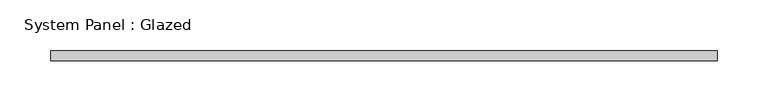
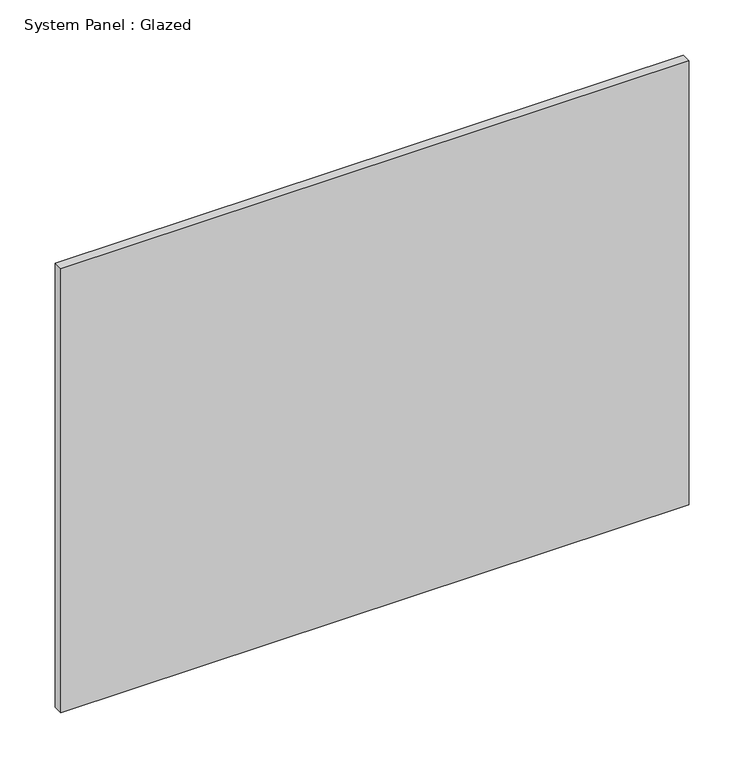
"""IFC4 building model written with IfcOpenShell, lengths in millimetres: plate geometry, System Panel : Glazed."""

import ifcopenshell
import ifcopenshell.guid

model = None  # the IFC model being written
_history = None  # IfcOwnerHistory: only IFC2X3 demands one
_inside = {}  # id of a spatial element -> (the spatial element, [elements in it])
_under = {}  # id of a project, library or spatial element -> (it, [spatial elements below it])
_declared = {}  # id of a project -> (the project, [libraries it declares])
_typed = {}  # id of a type object -> (the type object, [elements of that type])
_made_of = {}  # id of a material, layer set ... -> (it, [elements and type objects made of it])


def new_model(schema):
    """Start an empty IFC model of exactly this schema.

    Asked for "IFC4X3", IfcOpenShell would pick the latest addendum, in which some entities
    have other attributes; the version numbers below select the first issue.
    IFC2X3 requires an IfcOwnerHistory on every rooted entity: one is made here for all.
    """
    global model, _history
    if schema == "IFC4X3":
        model = ifcopenshell.file(schema_version=(4, 3, 0, 0))
    else:
        model = ifcopenshell.file(schema=schema)
    _inside.clear()
    _under.clear()
    _declared.clear()
    _typed.clear()
    _made_of.clear()
    _history = None
    if model.schema == "IFC2X3":
        org = make("IfcOrganization", Name="unknown")
        user = make(
            "IfcPersonAndOrganization",
            ThePerson=make("IfcPerson", FamilyName="unknown"),
            TheOrganization=org,
        )
        app = make(
            "IfcApplication",
            ApplicationDeveloper=org,
            Version="unknown",
            ApplicationFullName="unknown",
            ApplicationIdentifier="unknown",
        )
        _history = make(
            "IfcOwnerHistory",
            OwningUser=user,
            OwningApplication=app,
            ChangeAction="ADDED",
            CreationDate=0,
        )
    return model


def make(cls, **values):
    """One entity of the class cls with the attributes given. An attribute that is None is left unset."""
    return model.create_entity(
        cls, **{name: value for name, value in values.items() if value is not None}
    )


def rooted(cls, **values):
    """An entity with a GlobalId (a new one), such as an element, a storey or a relation."""
    return make(cls, GlobalId=ifcopenshell.guid.new(), OwnerHistory=_history, **values)


def si_unit(unit_type, name, prefix=None):
    """IfcSIUnit, for example si_unit("LENGTHUNIT", "METRE", prefix="MILLI")."""
    return make("IfcSIUnit", UnitType=unit_type, Prefix=prefix, Name=name)


def assignment(units):
    """IfcUnitAssignment: the units of a project."""
    return None if units is None else make("IfcUnitAssignment", Units=units)


def point(xyz):
    """IfcCartesianPoint."""
    return None if xyz is None else make("IfcCartesianPoint", Coordinates=xyz)


def direction(xyz):
    """IfcDirection."""
    return None if xyz is None else make("IfcDirection", DirectionRatios=xyz)


def frame(location, z_axis=None, x_axis=None):
    """IfcAxis2Placement3D, a coordinate frame: its origin and axes. An axis left out is left unset."""
    return make(
        "IfcAxis2Placement3D",
        Location=point(location),
        Axis=direction(z_axis),
        RefDirection=direction(x_axis),
    )


def origin():
    """The frame at (0, 0, 0) with its axes left unset."""
    return frame((0.0, 0.0, 0.0))


def origin_with_axes():
    """The frame at (0, 0, 0) with the z axis (0, 0, 1) and the x axis (1, 0, 0) written out."""
    return frame((0.0, 0.0, 0.0), z_axis=(0.0, 0.0, 1.0), x_axis=(1.0, 0.0, 0.0))


def place(relative_to, where):
    """IfcLocalPlacement: puts the frame where relative to a parent placement (None: the world)."""
    return make(
        "IfcLocalPlacement", PlacementRelTo=relative_to, RelativePlacement=where
    )


def context(
    kind, dimensions, precision=None, world=None, true_north=None, identifier=None
):
    """IfcGeometricRepresentationContext, for example the 3D "Model" context."""
    return make(
        "IfcGeometricRepresentationContext",
        ContextIdentifier=identifier,
        ContextType=kind,
        CoordinateSpaceDimension=dimensions,
        Precision=precision,
        WorldCoordinateSystem=world,
        TrueNorth=true_north,
    )


def project(units=None, contexts=None):
    """IfcProject with its units and contexts."""
    return rooted(
        "IfcProject",
        Name="project",
        RepresentationContexts=contexts,
        UnitsInContext=assignment(units),
    )


def spatial(cls, under=None, at=None, **own):
    """A site, building, storey or space (cls), placed at a placement, below another one or the project."""
    s = rooted(cls, ObjectPlacement=at, **own)
    if under is not None:
        _under.setdefault(under.id(), (under, []))[1].append(s)
    return s


def polyline(points):
    """IfcPolyline through the points."""
    return make("IfcPolyline", Points=[point(p) for p in points])


def outline(outer, holes=None, kind="AREA"):
    """IfcArbitraryClosedProfileDef: a profile drawn as a closed curve; with holes, ...WithVoids."""
    if holes is None:
        return make("IfcArbitraryClosedProfileDef", ProfileType=kind, OuterCurve=outer)
    return make(
        "IfcArbitraryProfileDefWithVoids",
        ProfileType=kind,
        OuterCurve=outer,
        InnerCurves=holes,
    )


def extrude(swept, where, along, depth):
    """IfcExtrudedAreaSolid: the profile swept, set in the frame where, extruded along a direction by depth."""
    return make(
        "IfcExtrudedAreaSolid",
        SweptArea=swept,
        Position=where,
        ExtrudedDirection=direction(along),
        Depth=depth,
    )


def shape(context_of_items, identifier, shape_type, items):
    """IfcShapeRepresentation: the items that make up one representation, for example the "Body"."""
    return make(
        "IfcShapeRepresentation",
        ContextOfItems=context_of_items,
        RepresentationIdentifier=identifier,
        RepresentationType=shape_type,
        Items=items,
    )


def source(mapping_origin, context_of_items, identifier, shape_type, items):
    """IfcRepresentationMap: a shape defined once, which mapped items show again and again."""
    return make(
        "IfcRepresentationMap",
        MappingOrigin=mapping_origin,
        MappedRepresentation=shape(context_of_items, identifier, shape_type, items),
    )


def transform(
    local_origin,
    x_axis=None,
    y_axis=None,
    z_axis=None,
    scale=None,
    scale2=None,
    scale3=None,
    uniform=True,
):
    """IfcCartesianTransformationOperator3D, or its non-uniform kind. x_axis, y_axis, z_axis: its Axis1, 2, 3."""
    if uniform:
        return make(
            "IfcCartesianTransformationOperator3D",
            Axis1=direction(x_axis),
            Axis2=direction(y_axis),
            LocalOrigin=point(local_origin),
            Scale=scale,
            Axis3=direction(z_axis),
        )
    return make(
        "IfcCartesianTransformationOperator3DnonUniform",
        Axis1=direction(x_axis),
        Axis2=direction(y_axis),
        LocalOrigin=point(local_origin),
        Scale=scale,
        Axis3=direction(z_axis),
        Scale2=scale2,
        Scale3=scale3,
    )


def mapped(mapping_source, mapping_target):
    """IfcMappedItem: shows the shape of a source again, moved by a transform."""
    return make(
        "IfcMappedItem", MappingSource=mapping_source, MappingTarget=mapping_target
    )


def made_of(thing, what):
    """Note that an element or type object is made of a material, layer set ...; save() writes the relation."""
    if what is not None:
        _made_of.setdefault(what.id(), (what, []))[1].append(thing)
    return thing


def element(
    cls,
    number,
    at=None,
    inside=None,
    cuts=None,
    type_object=None,
    material=None,
    context=None,
    identifier="Body",
    shape_type=None,
    held_by="IfcProductDefinitionShape",
    body=None,
    shapes=None,
    **own,
):
    """One element of the class cls, such as IfcWall. Its Tag is "e" and its number.

    at: its placement. inside: the storey or other place that contains it. cuts: it is an
    opening in that element (IfcRelVoidsElement). A single representation is given by context,
    identifier, shape_type and body (its items); several are given by shapes. held_by: the class
    of the entity that holds the representations. save() writes the other relations.
    """
    e = rooted(cls, Tag="e%d" % number, ObjectPlacement=at, **own)
    if body is not None:
        shapes = [shape(context, identifier, shape_type, body)]
    if shapes is not None:
        e.Representation = make(held_by, Representations=shapes)
    if inside is not None:
        _inside.setdefault(inside.id(), (inside, []))[1].append(e)
    if cuts is not None:
        rooted(
            "IfcRelVoidsElement", RelatingBuildingElement=cuts, RelatedOpeningElement=e
        )
    if type_object is not None:
        _typed.setdefault(type_object.id(), (type_object, []))[1].append(e)
    return made_of(e, material)


def aggregate(whole, parts):
    """IfcRelAggregates: a whole, such as a stair, and the parts it consists of."""
    return rooted("IfcRelAggregates", RelatingObject=whole, RelatedObjects=parts)


def save(model, path):
    """Write the relations noted so far, then the file.

    IfcRelAggregates (storeys below a building ...), IfcRelContainedInSpatialStructure (elements
    in a storey), IfcRelDefinesByType, IfcRelAssociatesMaterial and IfcRelDeclares: one each for
    every whole, place, type object, material and project.
    """
    for whole, parts in _under.values():
        aggregate(whole, parts)
    for where, things in _inside.values():
        rooted(
            "IfcRelContainedInSpatialStructure",
            RelatedElements=things,
            RelatingStructure=where,
        )
    for kind, things in _typed.values():
        rooted("IfcRelDefinesByType", RelatedObjects=things, RelatingType=kind)
    for what, things in _made_of.values():
        rooted("IfcRelAssociatesMaterial", RelatedObjects=things, RelatingMaterial=what)
    for by, libraries in _declared.values():
        rooted("IfcRelDeclares", RelatingContext=by, RelatedDefinitions=libraries)
    model.write(path)


def system_panel_glazed_c003b5f8(model_context):
    return source(origin(), model_context, "Body", "SweptSolid", [
        extrude(outline(polyline([(327.9941813, -5.0), (-327.9941813, -5.0), (-327.9941813, 5.0), (327.9941813, 5.0), (327.9941813, -5.0)])), origin_with_axes(), (0.0, 0.0, 1.0), 490.0),
    ])


if __name__ == "__main__":
    model = new_model("IFC4")
    model_context = context("Model", 3, world=origin())
    ifc_project = project(units=[si_unit("LENGTHUNIT", "METRE", prefix="MILLI")], contexts=[model_context])
    site = spatial("IfcSite", under=ifc_project)
    building = spatial("IfcBuilding", under=site)
    placement = place(None, origin())
    system_panel_glazed_shape = system_panel_glazed_c003b5f8(model_context)
    element("IfcPlate", 1, ObjectType="System Panel : Glazed", at=placement, inside=building, context=model_context, shape_type="MappedRepresentation", body=[
        mapped(system_panel_glazed_shape, transform((0.0, 0.0, 0.0), x_axis=(1.0, 0.0, 0.0), y_axis=(0.0, 1.0, 0.0), z_axis=(0.0, 0.0, 1.0))),
    ])
    save(model, "model.ifc")
